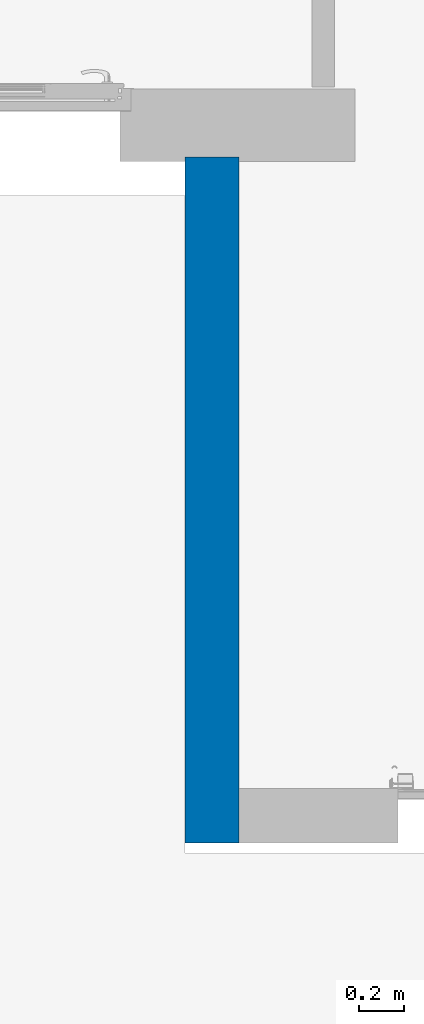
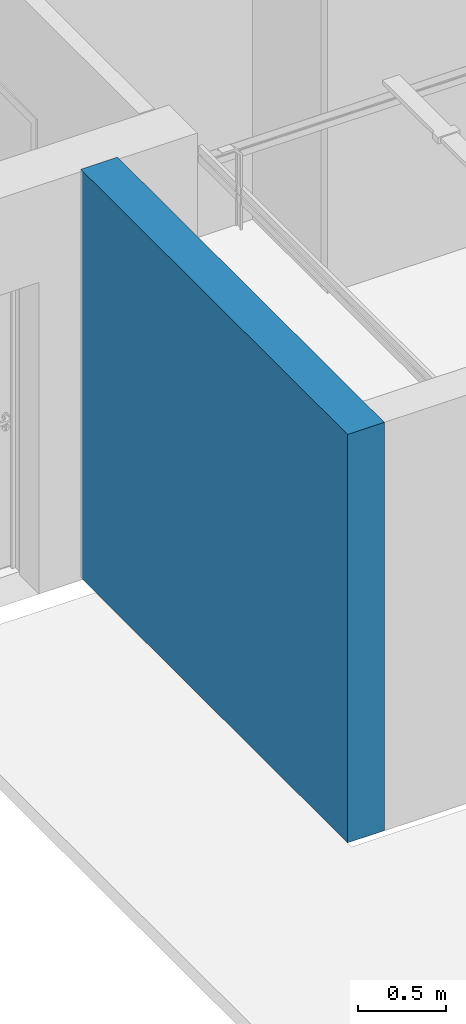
# One storey, part 3 of 30: 1 wall.
"""IFC2X3 building model written with IfcOpenShell, lengths in metres."""

from ifc_helpers import new_model, entity, si_unit, converted_unit, derived_unit, direction, frame, frame_2d, origin, place, context, subcontext, project, spatial, rectangle, extrude, material, layer, layer_set, layer_usage, type_object, element, save


model = new_model("IFC2X3")

# Units and contexts
model_context = context("Model", 3, precision=1e-05, world=origin(), true_north=direction((6.12303176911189e-17, 1.0)))
body_context = subcontext(model_context, "Body", "Model", "MODEL_VIEW")
ifc_project = project(units=[si_unit("LENGTHUNIT", "METRE"), si_unit("AREAUNIT", "SQUARE_METRE"), si_unit("VOLUMEUNIT", "CUBIC_METRE"), converted_unit("PLANEANGLEUNIT", "DEGREE", entity("IfcRatioMeasure", 0.0174532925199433), si_unit("PLANEANGLEUNIT", "RADIAN"), dimensions=[0, 0, 0, 0, 0, 0, 0]), si_unit("MASSUNIT", "GRAM", prefix="KILO"), derived_unit("MASSDENSITYUNIT", [(si_unit("MASSUNIT", "GRAM", prefix="KILO"), 1), (si_unit("LENGTHUNIT", "METRE"), -3)]), si_unit("TIMEUNIT", "SECOND"), si_unit("FREQUENCYUNIT", "HERTZ"), si_unit("THERMODYNAMICTEMPERATUREUNIT", "DEGREE_CELSIUS"), derived_unit("THERMALTRANSMITTANCEUNIT", [(si_unit("MASSUNIT", "GRAM", prefix="KILO"), 1), (si_unit("THERMODYNAMICTEMPERATUREUNIT", "KELVIN"), -1), (si_unit("TIMEUNIT", "SECOND"), -3)]), derived_unit("VOLUMETRICFLOWRATEUNIT", [(si_unit("LENGTHUNIT", "METRE"), 3), (si_unit("TIMEUNIT", "SECOND"), -1)]), si_unit("ELECTRICCURRENTUNIT", "AMPERE"), si_unit("ELECTRICVOLTAGEUNIT", "VOLT"), si_unit("POWERUNIT", "WATT"), si_unit("FORCEUNIT", "NEWTON", prefix="KILO"), si_unit("ILLUMINANCEUNIT", "LUX"), si_unit("LUMINOUSFLUXUNIT", "LUMEN"), si_unit("LUMINOUSINTENSITYUNIT", "CANDELA"), derived_unit("USERDEFINED", [(si_unit("MASSUNIT", "GRAM", prefix="KILO"), -1), (si_unit("LENGTHUNIT", "METRE"), -2), (si_unit("TIMEUNIT", "SECOND"), 3), (si_unit("LUMINOUSFLUXUNIT", "LUMEN"), 1)]), derived_unit("LINEARVELOCITYUNIT", [(si_unit("LENGTHUNIT", "METRE"), 1), (si_unit("TIMEUNIT", "SECOND"), -1)]), si_unit("PRESSUREUNIT", "PASCAL"), derived_unit("USERDEFINED", [(si_unit("LENGTHUNIT", "METRE"), -2), (si_unit("MASSUNIT", "GRAM", prefix="KILO"), 1), (si_unit("TIMEUNIT", "SECOND"), -2)])], contexts=[model_context])

# Site, building, storey
site_placement = place(None, origin())
site = spatial("IfcSite", under=ifc_project, at=site_placement, Name="Surface", CompositionType="ELEMENT")
building_placement = place(site_placement, origin())
building = spatial("IfcBuilding", under=site, at=building_placement, CompositionType="ELEMENT")
storey_placement = place(building_placement, origin())
storey = spatial("IfcBuildingStorey", under=building, at=storey_placement, Name="Plan des fondations  Maisons 1 et 2", CompositionType="ELEMENT", Elevation=0.0)

# Wall
ifc_material_1 = material(Name="Enduit  gris")
ifc_layer_1 = layer(ifc_material_1, 0.02)
ifc_material_2 = material(Name="Parpaing")
ifc_layer_2 = layer(ifc_material_2, 0.2)
ifc_layer_3 = layer(ifc_material_1, 0.02)
ifc_layer_set = layer_set([ifc_layer_1, ifc_layer_2, ifc_layer_3], Name="Mur de base:Ext. Parpaing 2 + 20 + 2 gris")
ifc_layer_usage = layer_usage(ifc_layer_set, "AXIS2", "POSITIVE", -0.12)
wall_type = type_object("IfcWallType", Name="Mur de base:Ext. Parpaing 2 + 20 + 2 gris", PredefinedType="STANDARD", material=ifc_layer_set)
wall_placement = place(storey_placement, frame((65.2946263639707, 76.8877566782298, 0.0), z_axis=(0.0, 0.0, 1.0), x_axis=(0.0, 1.0, 0.0)))
element("IfcWallStandardCase", 1, at=wall_placement, inside=storey, type_object=wall_type, material=ifc_layer_usage, Name="Mur de base:Ext. Parpaing 2 + 20 + 2 gris", ObjectType="Mur de base:Ext. Parpaing 2 + 20 + 2 gris", context=body_context, shape_type="SweptSolid", body=[
    extrude(rectangle(XDim=3.02000000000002, YDim=0.239999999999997, at=frame_2d((1.51000000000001, -1.81799020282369e-15), x_axis=(-1.0, 0.0))), origin(), (0.0, 0.0, 1.0), 2.82),
])

save(model, "model.ifc")
